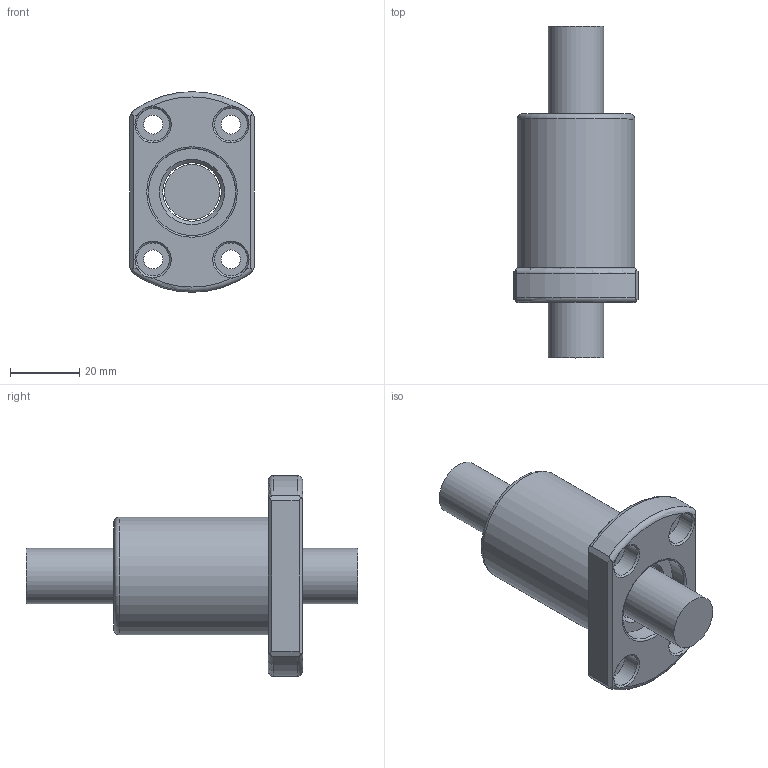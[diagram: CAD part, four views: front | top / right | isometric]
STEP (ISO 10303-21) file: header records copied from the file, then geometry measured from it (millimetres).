
FILE_DESCRIPTION(/* description */ (''),/* implementation_level */ '2;1');
FILE_NAME(/* name */ '1610T4D.prt.step',/* time_stamp */ '2008-12-05T09:33:11+08:00',/* author */ (''),/* organization */ (''),/* preprocessor_version */ 'ST-DEVELOPER v11',/* originating_system */ 'SIEMENS UGS NX 6.0',/* authorisation */ '');
FILE_SCHEMA (('AUTOMOTIVE_DESIGN { 1 0 10303 214 1 1 1 1 }'));
Length unit declared in the file: millimetre
Products named in the file (1): 1610T4D
Bounding box: 36 x 96 x 58 mm (x, y, z)
Volume: 61682 mm3; surface area: 18618.6 mm2
Topology: 2 solids, 2 shells, 58 faces, 141 edges, 89 vertices
Faces by surface type: plane 22, cylinder 15, cone 10, torus 7, bspline 4
Full cylindrical faces by diameter (mm): 5.5 x4, 9.5 x4, 15.95 x1, 16.9 x1, 25.2 x2, 34 x1
Entity records: 1764 total; most frequent: CARTESIAN_POINT 533, DIRECTION 240, ORIENTED_EDGE 220, EDGE_CURVE 110, AXIS2_PLACEMENT_3D 107, EDGE_LOOP 92, VERTEX_POINT 80, FACE_BOUND 66
